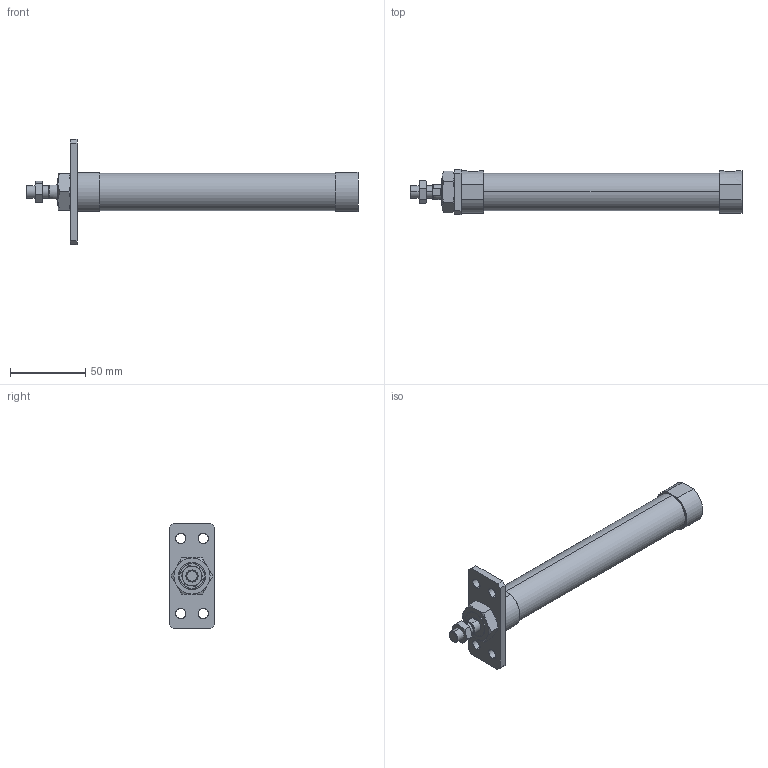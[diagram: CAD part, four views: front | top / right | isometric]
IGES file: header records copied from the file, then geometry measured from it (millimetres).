
Start section: SolidWorks IGES file using analytic representation for surfaces
Global section: file name: C:\Users\Toshiba\Desktop\JGND2-20-125-A.IGS; native system: SolidWorks 2014; preprocessor: SolidWorks 2014; author: Toshiba; date: 160804.103136; units: millimetre
Bounding box: 221 x 30 x 70 mm (x, y, z)
Surface area: 25380.5 mm2 (no closed solid volume)
Topology: 0 solids, 0 shells, 104 faces, 1876 edges, 1876 vertices
Faces by surface type: bspline 68, revolution 36
